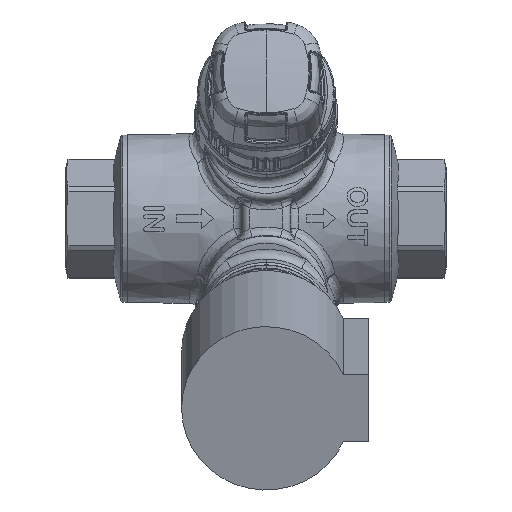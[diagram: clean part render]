
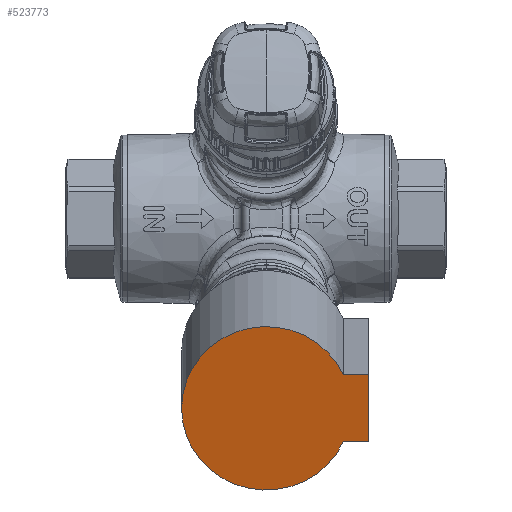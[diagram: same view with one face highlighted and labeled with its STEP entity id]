
A CAD part, top view. The second image highlights one B-rep face of the part: STEP entity #523773.
In plain terms, the highlighted planar face has unit normal (0, -0.259, 0.966).
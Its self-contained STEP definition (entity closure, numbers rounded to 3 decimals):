
#519615 = VERTEX_POINT('',#519616);
#519616 = CARTESIAN_POINT('',(113.645,22.57,
    146.762));
#519625 = CYLINDRICAL_SURFACE('',#519626,20.766);
#519626 = AXIS2_PLACEMENT_3D('',#519627,#519628,#519629);
#519627 = CARTESIAN_POINT('',(94.714,30.815,
    148.971));
#519628 = DIRECTION('',(0.,0.259,-0.966));
#519629 = DIRECTION('',(1.,0.,0.));
#519637 = PLANE('',#519638);
#519638 = AXIS2_PLACEMENT_3D('',#519639,#519640,#519641);
#519639 = CARTESIAN_POINT('',(111.142,29.514,
    120.849));
#519640 = DIRECTION('',(0.,0.966,0.259));
#519641 = DIRECTION('',(0.,-0.259,0.966));
#519649 = EDGE_CURVE('',#519650,#519615,#519652,.T.);
#519650 = VERTEX_POINT('',#519651);
#519651 = CARTESIAN_POINT('',(113.645,39.06,
    151.181));
#519652 = SURFACE_CURVE('',#519653,(#519658,#519665),.PCURVE_S1.);
#519653 = CIRCLE('',#519654,20.766);
#519654 = AXIS2_PLACEMENT_3D('',#519655,#519656,#519657);
#519655 = CARTESIAN_POINT('',(94.714,30.815,
    148.971));
#519656 = DIRECTION('',(0.,-0.259,0.966));
#519657 = DIRECTION('',(1.,0.,0.));
#519658 = PCURVE('',#519625,#519659);
#519659 = DEFINITIONAL_REPRESENTATION('',(#519660),#519664);
#519660 = LINE('',#519661,#519662);
#519661 = CARTESIAN_POINT('',(6.283,0.));
#519662 = VECTOR('',#519663,1.);
#519663 = DIRECTION('',(-1.,0.));
#519664 = ( GEOMETRIC_REPRESENTATION_CONTEXT(2) 
PARAMETRIC_REPRESENTATION_CONTEXT() REPRESENTATION_CONTEXT('2D SPACE',''
  ) );
#519665 = PCURVE('',#519666,#519671);
#519666 = PLANE('',#519667);
#519667 = AXIS2_PLACEMENT_3D('',#519668,#519669,#519670);
#519668 = CARTESIAN_POINT('',(117.71,39.06,
    151.181));
#519669 = DIRECTION('',(0.,-0.259,0.966));
#519670 = DIRECTION('',(-1.,0.,0.));
#519671 = DEFINITIONAL_REPRESENTATION('',(#519672),#519676);
#519672 = CIRCLE('',#519673,20.766);
#519673 = AXIS2_PLACEMENT_2D('',#519674,#519675);
#519674 = CARTESIAN_POINT('',(22.996,8.536));
#519675 = DIRECTION('',(-1.,-0.));
#519676 = ( GEOMETRIC_REPRESENTATION_CONTEXT(2) 
PARAMETRIC_REPRESENTATION_CONTEXT() REPRESENTATION_CONTEXT('2D SPACE',''
  ) );
#519694 = PLANE('',#519695);
#519695 = AXIS2_PLACEMENT_3D('',#519696,#519697,#519698);
#519696 = CARTESIAN_POINT('',(111.142,46.004,
    125.268));
#519697 = DIRECTION('',(0.,0.966,0.259));
#519698 = DIRECTION('',(0.,-0.259,0.966));
#523664 = PLANE('',#523665);
#523665 = AXIS2_PLACEMENT_3D('',#523666,#523667,#523668);
#523666 = CARTESIAN_POINT('',(119.94,46.004,
    125.268));
#523667 = DIRECTION('',(1.,0.,0.));
#523668 = DIRECTION('',(0.,-0.259,0.966));
#523680 = EDGE_CURVE('',#519650,#523681,#523683,.T.);
#523681 = VERTEX_POINT('',#523682);
#523682 = CARTESIAN_POINT('',(119.94,39.06,
    151.181));
#523683 = SURFACE_CURVE('',#523684,(#523688,#523695),.PCURVE_S1.);
#523684 = LINE('',#523685,#523686);
#523685 = CARTESIAN_POINT('',(115.48,39.06,
    151.181));
#523686 = VECTOR('',#523687,1.);
#523687 = DIRECTION('',(1.,0.,0.));
#523688 = PCURVE('',#519694,#523689);
#523689 = DEFINITIONAL_REPRESENTATION('',(#523690),#523694);
#523690 = LINE('',#523691,#523692);
#523691 = CARTESIAN_POINT('',(26.827,4.338));
#523692 = VECTOR('',#523693,1.);
#523693 = DIRECTION('',(0.,1.));
#523694 = ( GEOMETRIC_REPRESENTATION_CONTEXT(2) 
PARAMETRIC_REPRESENTATION_CONTEXT() REPRESENTATION_CONTEXT('2D SPACE',''
  ) );
#523695 = PCURVE('',#519666,#523696);
#523696 = DEFINITIONAL_REPRESENTATION('',(#523697),#523701);
#523697 = LINE('',#523698,#523699);
#523698 = CARTESIAN_POINT('',(2.23,0.));
#523699 = VECTOR('',#523700,1.);
#523700 = DIRECTION('',(-1.,-0.));
#523701 = ( GEOMETRIC_REPRESENTATION_CONTEXT(2) 
PARAMETRIC_REPRESENTATION_CONTEXT() REPRESENTATION_CONTEXT('2D SPACE',''
  ) );
#523729 = VERTEX_POINT('',#523730);
#523730 = CARTESIAN_POINT('',(119.94,22.57,
    146.762));
#523753 = EDGE_CURVE('',#523681,#523729,#523754,.T.);
#523754 = SURFACE_CURVE('',#523755,(#523759,#523766),.PCURVE_S1.);
#523755 = LINE('',#523756,#523757);
#523756 = CARTESIAN_POINT('',(119.94,39.06,
    151.181));
#523757 = VECTOR('',#523758,1.);
#523758 = DIRECTION('',(0.,-0.966,-0.259));
#523759 = PCURVE('',#523664,#523760);
#523760 = DEFINITIONAL_REPRESENTATION('',(#523761),#523765);
#523761 = LINE('',#523762,#523763);
#523762 = CARTESIAN_POINT('',(26.827,0.));
#523763 = VECTOR('',#523764,1.);
#523764 = DIRECTION('',(0.,1.));
#523765 = ( GEOMETRIC_REPRESENTATION_CONTEXT(2) 
PARAMETRIC_REPRESENTATION_CONTEXT() REPRESENTATION_CONTEXT('2D SPACE',''
  ) );
#523766 = PCURVE('',#519666,#523767);
#523767 = DEFINITIONAL_REPRESENTATION('',(#523768),#523772);
#523768 = LINE('',#523769,#523770);
#523769 = CARTESIAN_POINT('',(-2.23,-0.));
#523770 = VECTOR('',#523771,1.);
#523771 = DIRECTION('',(-0.,1.));
#523772 = ( GEOMETRIC_REPRESENTATION_CONTEXT(2) 
PARAMETRIC_REPRESENTATION_CONTEXT() REPRESENTATION_CONTEXT('2D SPACE',''
  ) );
#523773 = ADVANCED_FACE('',(#523774),#519666,.T.);
#523774 = FACE_BOUND('',#523775,.T.);
#523775 = EDGE_LOOP('',(#523776,#523777,#523798,#523799));
#523776 = ORIENTED_EDGE('',*,*,#519649,.T.);
#523777 = ORIENTED_EDGE('',*,*,#523778,.T.);
#523778 = EDGE_CURVE('',#519615,#523729,#523779,.T.);
#523779 = SURFACE_CURVE('',#523780,(#523784,#523791),.PCURVE_S1.);
#523780 = LINE('',#523781,#523782);
#523781 = CARTESIAN_POINT('',(102.344,22.57,
    146.762));
#523782 = VECTOR('',#523783,1.);
#523783 = DIRECTION('',(1.,0.,0.));
#523784 = PCURVE('',#519666,#523785);
#523785 = DEFINITIONAL_REPRESENTATION('',(#523786),#523790);
#523786 = LINE('',#523787,#523788);
#523787 = CARTESIAN_POINT('',(15.366,17.072));
#523788 = VECTOR('',#523789,1.);
#523789 = DIRECTION('',(-1.,-0.));
#523790 = ( GEOMETRIC_REPRESENTATION_CONTEXT(2) 
PARAMETRIC_REPRESENTATION_CONTEXT() REPRESENTATION_CONTEXT('2D SPACE',''
  ) );
#523791 = PCURVE('',#519637,#523792);
#523792 = DEFINITIONAL_REPRESENTATION('',(#523793),#523797);
#523793 = LINE('',#523794,#523795);
#523794 = CARTESIAN_POINT('',(26.827,-8.798));
#523795 = VECTOR('',#523796,1.);
#523796 = DIRECTION('',(0.,1.));
#523797 = ( GEOMETRIC_REPRESENTATION_CONTEXT(2) 
PARAMETRIC_REPRESENTATION_CONTEXT() REPRESENTATION_CONTEXT('2D SPACE',''
  ) );
#523798 = ORIENTED_EDGE('',*,*,#523753,.F.);
#523799 = ORIENTED_EDGE('',*,*,#523680,.F.);
